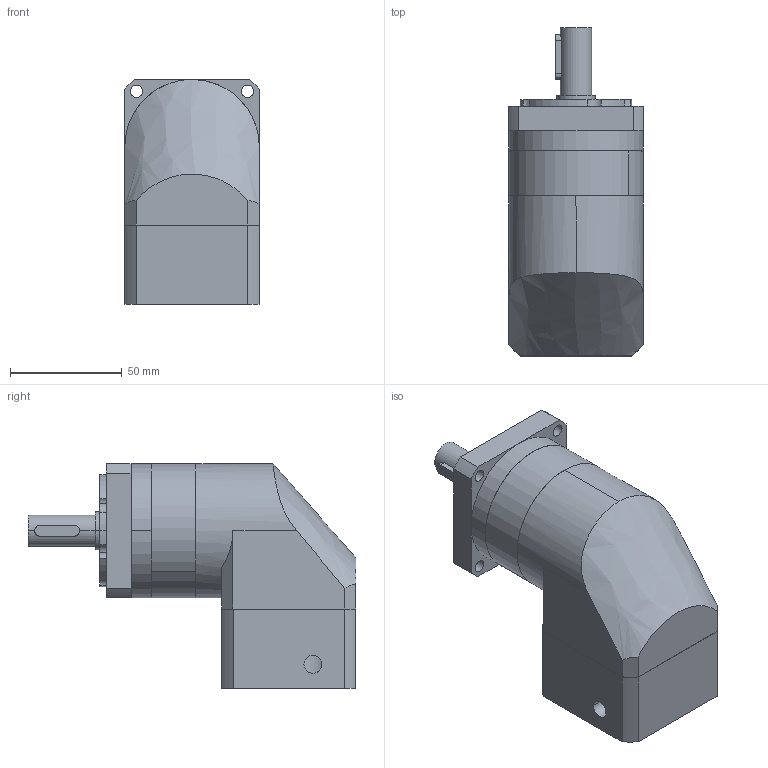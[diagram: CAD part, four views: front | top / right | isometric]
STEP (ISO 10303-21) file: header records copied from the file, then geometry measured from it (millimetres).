
FILE_DESCRIPTION (( 'STEP AP203' ), '1' );
FILE_NAME ('PVFA060-L1-14-50-70.STEP', '2022-07-27T03:23:45', ( 'Windows User' ), ( 'P R C' ), 'SwSTEP 2.0', 'SolidWorks 2016', '' );
FILE_SCHEMA (( 'CONFIG_CONTROL_DESIGN' ));
Length unit declared in the file: millimetre
Products named in the file (9): PVFA060-薊粣; 双列角接触球轴承 5203_2; PVFA060-蟀諉啣; 囀鞠褒蹟佪-M5℅16; 邧埴瑩  5x5x20; PVFA060-眊极_揤翉; PVFA060 κｳﾝﾈｦ_ﾒｻｼｶﾄﾚｳﾝﾈｦ; PVFA060-L1-14-50-70; PVFA060 奻屳唳 梓袧
Assembly tree (8 placements, depth 2):
  PVFA060-L1-14-50-70
    PVFA060 奻屳唳 梓袧
    PVFA060-薊粣
    双列角接触球轴承 5203_2
    PVFA060-蟀諉啣
    囀鞠褒蹟佪-M5℅16
    邧埴瑩  5x5x20
    PVFA060-眊极_揤翉
    PVFA060 κｳﾝﾈｦ_ﾒｻｼｶﾄﾚｳﾝﾈｦ
Bounding box: 60 x 146.5 x 100.5 mm (x, y, z)
Volume: 412409.1 mm3; surface area: 96696.1 mm2
Topology: 8 solids, 8 shells, 1047 faces, 2962 edges, 1910 vertices
Faces by surface type: plane 564, bspline 271, cylinder 182, cone 30
Entity records: 43298 total; most frequent: CARTESIAN_POINT 17129, ORIENTED_EDGE 5728, DIRECTION 4483, EDGE_CURVE 2864, VERTEX_POINT 1910, VECTOR 1627, LINE 1627, AXIS2_PLACEMENT_3D 1428
